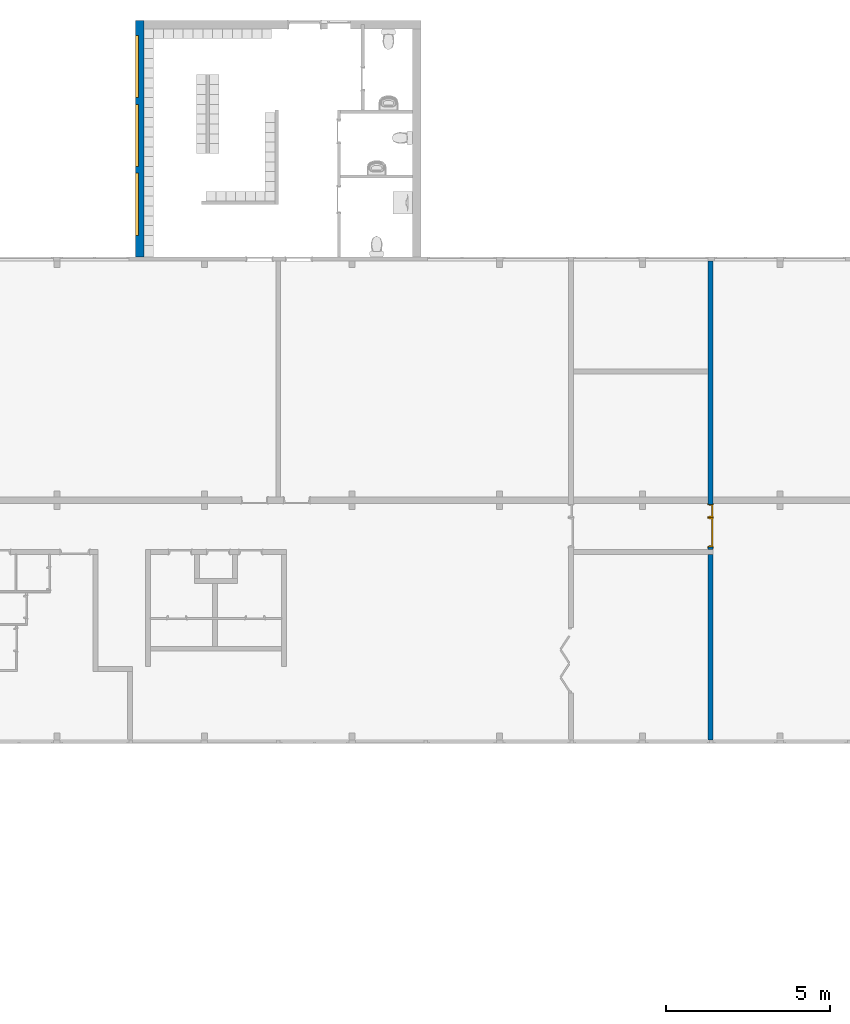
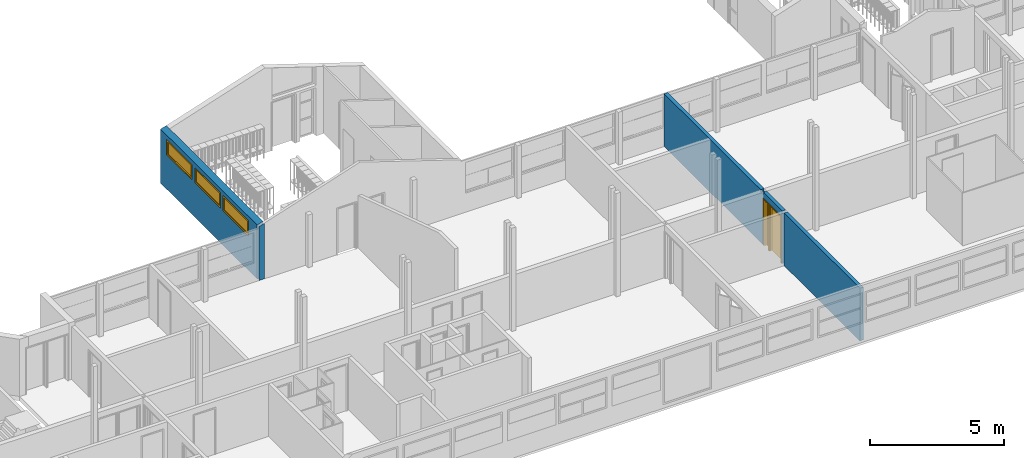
# One storey, part 22 of 48: 3 windows, 2 doors, 2 walls, 5 openings.
"""IFC2X3 building model written with IfcOpenShell, lengths in millimetres."""

from ifc_helpers import new_model, entity, si_unit, converted_unit, derived_unit, money_unit, direction, frame, origin_with_axes, place, context, subcontext, project, spatial, open_shell, faceted_brep, surface_model, source, transform, mapped, material, type_object, element, fill, save


model = new_model("IFC2X3")

# Units and contexts
model_context = context("Model", 3, precision=0.01, world=origin_with_axes(), true_north=direction((0.0, 1.0)))
body_context = subcontext(model_context, "Body", "Model", "MODEL_VIEW")
ifc_project = project(units=[si_unit("LENGTHUNIT", "METRE", prefix="MILLI"), si_unit("AREAUNIT", "SQUARE_METRE"), si_unit("VOLUMEUNIT", "CUBIC_METRE"), converted_unit("PLANEANGLEUNIT", "DEGREE", entity("IfcPlaneAngleMeasure", 0.0174532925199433), si_unit("PLANEANGLEUNIT", "RADIAN"), dimensions=[0, 0, 0, 0, 0, 0, 0]), money_unit("USD"), converted_unit("TIMEUNIT", "Year", entity("IfcTimeMeasure", 31557600.0), si_unit("TIMEUNIT", "SECOND"), dimensions=[0, 0, 1, 0, 0, 0, 0]), si_unit("MASSUNIT", "GRAM", prefix="KILO"), si_unit("THERMODYNAMICTEMPERATUREUNIT", "DEGREE_CELSIUS"), si_unit("LUMINOUSINTENSITYUNIT", "LUMEN"), si_unit("ENERGYUNIT", "JOULE", prefix="MEGA"), derived_unit("THERMALCONDUCTANCEUNIT", [(si_unit("POWERUNIT", "WATT"), 1), (si_unit("LENGTHUNIT", "METRE"), -1), (si_unit("THERMODYNAMICTEMPERATUREUNIT", "KELVIN"), -1)]), derived_unit("SPECIFICHEATCAPACITYUNIT", [(si_unit("ENERGYUNIT", "JOULE"), 1), (si_unit("MASSUNIT", "GRAM", prefix="KILO"), -1), (si_unit("THERMODYNAMICTEMPERATUREUNIT", "KELVIN"), -1)]), derived_unit("MASSDENSITYUNIT", [(si_unit("MASSUNIT", "GRAM", prefix="KILO"), 1), (si_unit("VOLUMEUNIT", "CUBIC_METRE"), -1)])], contexts=[model_context])

# Site, building, storey
site_placement = place(None, origin_with_axes())
site = spatial("IfcSite", under=ifc_project, at=site_placement, Name="Site", CompositionType="ELEMENT")
building_placement = place(site_placement, origin_with_axes())
building = spatial("IfcBuilding", under=site, at=building_placement, Name="Building", CompositionType="ELEMENT")
storey_placement = place(building_placement, frame((0.0, 0.0, 3300.0), z_axis=(0.0, 0.0, 1.0), x_axis=(1.0, 0.0, 0.0)))
storey = spatial("IfcBuildingStorey", under=building, at=storey_placement, Name="1 ETG", CompositionType="ELEMENT", Elevation=3300.0)

# Wall, openings, doors
ifc_material = material(Name="GENERIC - INTERNAL FILLER")
wall_type_1 = type_object("IfcWallType", Name="GENERIC - INTERNAL FILLER 150", PredefinedType="NOTDEFINED")
wall_1_placement = place(storey_placement, frame((51500.00000000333, 7199.837815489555, 0.0), z_axis=(0.0, 0.0, 1.0), x_axis=(-1.768724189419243e-06, 0.9999999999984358, 0.0)))
wall_1 = element("IfcWall", 1, at=wall_1_placement, inside=storey, type_object=wall_type_1, material=ifc_material, Name="SW - 001", context=body_context, shape_type="Brep", body=[
    faceted_brep([(5800.03716090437, 0.0, 0.0), (5875.425638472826, 0.0, 0.0), (5875.425638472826, 0.0, 2100.0), (7175.425571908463, 0.0, 2100.0), (7175.425571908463, 0.0, 0.0), (14600.07247871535, 0.0, 0.0), (14600.07247871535, 0.0, 2400.0), (7400.162184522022, 0.0, 2400.0), (7400.162184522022, 0.0, 2300.000000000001), (7200.16218452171, 0.0, 2300.000000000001), (7200.16218452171, 0.0, 2400.0), (5800.03716090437, 0.0, 2400.0), (5800.037426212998, 149.9999999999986, 0.0), (5875.425638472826, 149.9999999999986, 0.0), (5875.425638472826, 150.0000000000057, 2100.0), (7175.425571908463, 150.0000000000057, 2100.0), (7175.425571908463, 149.9999999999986, 0.0), (14600.0729945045, 149.9999999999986, 0.0), (14600.0729945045, 149.9999999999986, 2400.0), (7400.16244983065, 150.0000000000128, 2400.0), (7400.16244983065, 150.0000000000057, 2300.000000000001), (7200.162449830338, 150.0000000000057, 2300.000000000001), (7200.162449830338, 150.0000000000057, 2400.0), (5800.037426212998, 149.9999999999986, 2400.0)], [[[0, 1, 2, 3, 4, 5, 6, 7, 8, 9, 10, 11]], [[12, 13, 1, 0]], [[14, 2, 1, 13]], [[3, 2, 14, 15]], [[4, 3, 15, 16]], [[4, 16, 17, 5]], [[5, 17, 18, 6]], [[19, 7, 6, 18]], [[8, 7, 19, 20]], [[9, 8, 20, 21]], [[22, 10, 9, 21]], [[10, 22, 23, 11]], [[23, 12, 0, 11]], [[15, 14, 13, 12, 23, 22, 21, 20, 19, 18, 17, 16]]]),
    faceted_brep([(0.0, 149.9999999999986, 0.0), (5650.037426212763, 149.9999999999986, 0.0), (5650.037160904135, 0.0, 0.0), (0.0, 0.0, 0.0), (0.0, 149.9999999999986, 2400.0), (5650.037426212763, 149.9999999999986, 2400.0), (5650.037160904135, 0.0, 2400.0), (0.0, 0.0, 2400.0)], [[[0, 1, 2, 3]], [[4, 5, 1, 0]], [[6, 2, 1, 5]], [[3, 2, 6, 7]], [[7, 4, 0, 3]], [[7, 6, 5, 4]]]),
])
opening_1_placement = place(wall_1_placement, frame((6325.425638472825, 0.0, 0.0), z_axis=(0.0, 0.0, 1.0), x_axis=(1.0, 0.0, 0.0)))
opening_1 = element("IfcOpeningElement", 2, at=opening_1_placement, cuts=wall_1, Name="DOO - 002", context=body_context, shape_type="Brep", body=[
    faceted_brep([(450.0000000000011, -1.025823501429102, 0.0), (450.0000000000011, -1.025823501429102, 2100.0), (-449.9999999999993, -1.025823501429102, 2100.0), (-449.9999999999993, -1.025823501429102, 0.0), (487.0000000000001, -1.025823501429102, 0.0), (487.0000000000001, -1.025823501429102, 2137.0), (-486.9999999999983, -1.025823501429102, 2137.0), (-486.9999999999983, -1.025823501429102, 0.0), (450.0000000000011, 0.0, 0.0), (-449.9999999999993, 0.0, 0.0), (-449.9999999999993, 150.0000000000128, 0.0), (-449.9999999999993, 151.0258235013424, 0.0), (450.0000000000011, 151.0258235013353, 0.0), (450.0000000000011, 150.0000000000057, 0.0), (487.0000000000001, 0.0, 0.0), (487.0000000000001, 0.0, 2137.0), (-486.9999999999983, 0.0, 2137.0), (-486.9999999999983, 0.0, 0.0), (-449.9999999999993, 0.0, 2100.0), (-449.9999999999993, 150.0000000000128, 2100.0), (-486.9999999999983, 150.0000000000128, 0.0), (-487.0000000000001, 151.0258235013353, 0.0), (-487.0000000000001, 151.0258235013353, 2137.0), (487.0000000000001, 151.0258235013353, 2137.0), (487.0000000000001, 151.0258235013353, 0.0), (487.0000000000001, 150.0000000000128, 0.0), (450.0000000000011, 0.0, 2100.0), (450.0000000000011, 150.0000000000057, 2100.0), (487.0000000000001, 150.0000000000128, 2137.0), (-486.9999999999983, 150.0000000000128, 2137.0)], [[[0, 1, 2, 3]], [[2, 1, 0, 4, 5, 6, 7, 3]], [[8, 0, 3, 9, 10, 11, 12, 13]], [[0, 8, 14, 4]], [[14, 15, 5, 4]], [[15, 16, 6, 5]], [[16, 17, 7, 6]], [[9, 3, 7, 17]], [[9, 18, 19, 10]], [[11, 10, 20, 21]], [[12, 11, 21, 22, 23, 24]], [[13, 12, 24, 25]], [[26, 8, 13, 27]], [[8, 26, 18, 9, 17, 16, 15, 14]], [[18, 26, 27, 19]], [[19, 27, 13, 25, 28, 29, 20, 10]], [[20, 29, 22, 21]], [[29, 28, 23, 22]], [[28, 25, 24, 23]]]),
])
opening_2_placement = place(wall_1_placement, frame((6975.425571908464, 0.0, 0.0), z_axis=(0.0, 0.0, 1.0), x_axis=(1.0, 0.0, 0.0)))
opening_2 = element("IfcOpeningElement", 3, at=opening_2_placement, cuts=wall_1, Name="DOO - 002", context=body_context, shape_type="Brep", body=[
    faceted_brep([(200.0000000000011, -1.025823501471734, 0.0), (200.0000000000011, -1.025823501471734, 2100.0), (-199.9999999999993, -1.025823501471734, 2100.0), (-199.9999999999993, -1.025823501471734, 0.0), (237.0000000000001, -1.025823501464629, 0.0), (237.0000000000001, -1.025823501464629, 2137.0), (-237.0000000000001, -1.025823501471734, 2137.0), (-237.0000000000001, -1.025823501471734, 0.0), (199.9999999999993, 0.0, 0.0), (-199.9999999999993, 0.0, 0.0), (-199.9999999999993, 150.0000000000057, 0.0), (-199.9999999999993, 151.0258235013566, 0.0), (199.9999999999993, 151.0258235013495, 0.0), (199.9999999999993, 149.9999999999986, 0.0), (236.9999999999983, 0.0, 0.0), (236.9999999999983, 0.0, 2137.0), (-237.0000000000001, 0.0, 2137.0), (-237.0000000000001, 0.0, 0.0), (-199.9999999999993, 0.0, 2100.0), (-199.9999999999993, 149.9999999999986, 2100.0), (-237.0000000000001, 150.0000000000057, 0.0), (-237.0000000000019, 151.0258235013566, 0.0), (-237.0000000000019, 151.0258235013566, 2137.0), (236.9999999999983, 151.0258235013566, 2137.0), (236.9999999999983, 151.0258235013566, 0.0), (236.9999999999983, 149.9999999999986, 0.0), (199.9999999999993, 0.0, 2100.0), (199.9999999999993, 149.9999999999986, 2100.0), (236.9999999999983, 149.9999999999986, 2137.0), (-237.0000000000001, 150.0000000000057, 2137.0)], [[[0, 1, 2, 3]], [[2, 1, 0, 4, 5, 6, 7, 3]], [[8, 0, 3, 9, 10, 11, 12, 13]], [[0, 8, 14, 4]], [[14, 15, 5, 4]], [[15, 16, 6, 5]], [[16, 17, 7, 6]], [[9, 3, 7, 17]], [[9, 18, 19, 10]], [[11, 10, 20, 21]], [[12, 11, 21, 22, 23, 24]], [[13, 12, 24, 25]], [[26, 8, 13, 27]], [[8, 26, 18, 9, 17, 16, 15, 14]], [[18, 26, 27, 19]], [[19, 27, 13, 25, 28, 29, 20, 10]], [[20, 29, 22, 21]], [[29, 28, 23, 22]], [[28, 25, 24, 23]]]),
])
door_style_1 = type_object("IfcDoorStyle", Name="Dør", ConstructionType="NOTDEFINED", OperationType="SINGLE_SWING_RIGHT", ParameterTakesPrecedence=False, Sizeable=False)
shared_shape_1 = source(origin_with_axes(), body_context, "Body", "Brep", [
    faceted_brep([(-450.0, -115.0, 0.0), (-425.0, -115.0, 0.0), (-425.0, -150.0, 0.0), (-450.0, -150.0, 0.0), (-450.0, -115.0000000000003, 2100.0), (-425.0, -115.0000000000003, 2075.0), (-425.0, -150.0000000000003, 2075.0), (-450.0, -150.0000000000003, 2100.0)], [[[0, 1, 2, 3]], [[0, 4, 5, 1]], [[1, 5, 6, 2]], [[3, 2, 6, 7]], [[4, 0, 3, 7]], [[5, 4, 7, 6]]]),
    faceted_brep([(450.0, -115.0000000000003, 2100.0), (425.0, -115.0000000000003, 2075.0), (425.0, -150.0000000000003, 2075.0), (450.0, -150.0000000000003, 2100.0), (450.0, -115.0, 0.0), (425.0, -115.0, 0.0), (425.0, -150.0, 0.0), (450.0, -150.0, 0.0)], [[[0, 1, 2, 3]], [[0, 4, 5, 1]], [[1, 5, 6, 2]], [[3, 2, 6, 7]], [[4, 0, 3, 7]], [[5, 4, 7, 6]]]),
    faceted_brep([(-425.0, -115.0000000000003, 2075.0), (425.0, -115.0000000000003, 2075.0), (425.0, -150.0000000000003, 2075.0), (-425.0, -150.0000000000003, 2075.0), (-450.0, -115.0000000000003, 2100.0), (450.0, -115.0000000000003, 2100.0), (450.0, -150.0000000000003, 2100.0), (-450.0, -150.0000000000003, 2100.0)], [[[0, 1, 2, 3]], [[0, 4, 5, 1]], [[1, 5, 6, 2]], [[3, 2, 6, 7]], [[4, 0, 3, 7]], [[5, 4, 7, 6]]]),
    faceted_brep([(-487.0, -169.0, 0.0), (-487.0, -150.0, 0.0), (-437.0, -150.0, 0.0), (-437.0, -169.0, 0.0), (-487.0, -169.0000000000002, 2137.0), (-487.0, -150.0000000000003, 2137.0), (-437.0, -150.0000000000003, 2087.0), (-437.0, -169.0000000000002, 2087.0)], [[[0, 1, 2, 3]], [[4, 5, 1, 0]], [[1, 5, 6, 2]], [[3, 2, 6, 7]], [[0, 3, 7, 4]], [[7, 6, 5, 4]]]),
    faceted_brep([(487.0, -169.0000000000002, 2137.0), (487.0, -150.0000000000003, 2137.0), (437.0, -150.0000000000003, 2087.0), (437.0, -169.0000000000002, 2087.0), (487.0, -169.0, 0.0), (487.0, -150.0, 0.0), (437.0, -150.0, 0.0), (437.0, -169.0, 0.0)], [[[0, 1, 2, 3]], [[4, 5, 1, 0]], [[1, 5, 6, 2]], [[3, 2, 6, 7]], [[0, 3, 7, 4]], [[7, 6, 5, 4]]]),
    faceted_brep([(-487.0, -169.0000000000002, 2137.0), (-487.0, -150.0000000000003, 2137.0), (-437.0, -150.0000000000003, 2087.0), (-437.0, -169.0000000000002, 2087.0), (487.0, -169.0000000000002, 2137.0), (487.0, -150.0000000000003, 2137.0), (437.0, -150.0000000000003, 2087.0), (437.0, -169.0000000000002, 2087.0)], [[[0, 1, 2, 3]], [[4, 5, 1, 0]], [[1, 5, 6, 2]], [[3, 2, 6, 7]], [[0, 3, 7, 4]], [[7, 6, 5, 4]]]),
    faceted_brep([(-487.0, 19.0, 0.0), (-437.0, 19.0, 0.0), (-437.0, 0.0, 0.0), (-487.0, 0.0, 0.0), (-487.0, 18.99999999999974, 2137.0), (-437.0, 18.99999999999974, 2087.0), (-437.0, 0.0, 2087.0), (-487.0, 0.0, 2137.0)], [[[0, 1, 2, 3]], [[0, 4, 5, 1]], [[1, 5, 6, 2]], [[3, 2, 6, 7]], [[4, 0, 3, 7]], [[5, 4, 7, 6]]]),
    faceted_brep([(487.0, 18.99999999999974, 2137.0), (437.0, 18.99999999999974, 2087.0), (437.0, 0.0, 2087.0), (487.0, 0.0, 2137.0), (487.0, 19.0, 0.0), (437.0, 19.0, 0.0), (437.0, 0.0, 0.0), (487.0, 0.0, 0.0)], [[[0, 1, 2, 3]], [[0, 4, 5, 1]], [[1, 5, 6, 2]], [[3, 2, 6, 7]], [[4, 0, 3, 7]], [[5, 4, 7, 6]]]),
    faceted_brep([(-487.0, 18.99999999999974, 2137.0), (-437.0, 18.99999999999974, 2087.0), (-437.0, 0.0, 2087.0), (-487.0, 0.0, 2137.0), (487.0, 18.99999999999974, 2137.0), (437.0, 18.99999999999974, 2087.0), (437.0, 0.0, 2087.0), (487.0, 0.0, 2137.0)], [[[0, 1, 2, 3]], [[0, 4, 5, 1]], [[1, 5, 6, 2]], [[3, 2, 6, 7]], [[4, 0, 3, 7]], [[5, 4, 7, 6]]]),
    faceted_brep([(-450.0, 0.0, 0.0), (-410.0000000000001, 0.0, 0.0), (-410.0000000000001, -115.0, 0.0), (-450.0, -115.0, 0.0), (-450.0, 0.0, 2060.0), (-410.0000000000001, 0.0, 2060.0), (-410.0000000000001, -115.0, 2060.0), (-450.0, -115.0, 2060.0)], [[[0, 1, 2, 3]], [[0, 4, 5, 1]], [[1, 5, 6, 2]], [[3, 2, 6, 7]], [[4, 0, 3, 7]], [[5, 4, 7, 6]]]),
    faceted_brep([(450.0, 0.0, 0.0), (450.0, 0.0, 2060.0), (450.0, -115.0, 2060.0), (450.0, -115.0, 0.0), (410.0000000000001, 0.0, 0.0), (410.0000000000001, 0.0, 2060.0), (410.0000000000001, -115.0, 2060.0), (410.0000000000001, -115.0, 0.0)], [[[0, 1, 2, 3]], [[0, 4, 5, 1]], [[1, 5, 6, 2]], [[3, 2, 6, 7]], [[4, 0, 3, 7]], [[5, 4, 7, 6]]]),
    faceted_brep([(-450.0, 0.0, 2100.0), (-450.0, 0.0, 2060.0), (-450.0, -115.0, 2060.0), (-450.0, -115.0, 2100.0), (450.0, 0.0, 2100.0), (450.0, 0.0, 2060.0), (410.0000000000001, 0.0, 2060.0), (-410.0000000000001, 0.0, 2060.0), (-410.0000000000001, -115.0, 2060.0), (410.0000000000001, -115.0, 2060.0), (450.0, -115.0, 2060.0), (450.0, -115.0, 2100.0)], [[[0, 1, 2, 3]], [[0, 4, 5, 6, 7, 1]], [[1, 7, 8, 2]], [[3, 2, 8, 9, 10, 11]], [[4, 0, 3, 11]], [[5, 4, 11, 10]], [[6, 5, 10, 9]], [[7, 6, 9, 8]]]),
    faceted_brep([(409.9999999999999, 0.0, 0.0), (409.9999999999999, -40.0, 0.0), (-410.0000000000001, -40.0, 0.0), (-410.0000000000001, 0.0, 0.0), (409.9999999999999, 0.0, 2060.0), (409.9999999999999, -40.00000000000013, 2060.0), (-410.0000000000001, -40.00000000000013, 2060.0), (-410.0000000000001, 0.0, 2060.0)], [[[0, 1, 2, 3]], [[4, 5, 1, 0]], [[1, 5, 6, 2]], [[3, 2, 6, 7]], [[0, 3, 7, 4]], [[7, 6, 5, 4]]]),
])
door_1_placement = place(opening_1_placement, frame((450.0000000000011, 0.0, 0.0), z_axis=(0.0, 0.0, 1.0), x_axis=(-1.0, 0.0, 0.0)))
door_1 = element("IfcDoor", 4, at=door_1_placement, inside=storey, type_object=door_style_1, Name="DOO - 002", ObjectType="DOOR", OverallHeight=2100.0, OverallWidth=900.0, context=body_context, shape_type="MappedRepresentation", body=[
    mapped(shared_shape_1, transform((450.0000000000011, 0.0, 0.0))),
])
fill(opening_1, door_1)
door_style_2 = type_object("IfcDoorStyle", Name="Dør", ConstructionType="NOTDEFINED", OperationType="SINGLE_SWING_LEFT", ParameterTakesPrecedence=False, Sizeable=False)
shared_shape_2 = source(origin_with_axes(), body_context, "Body", "Brep", [
    faceted_brep([(199.9999999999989, -115.0, 0.0), (199.9999999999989, -150.0, 0.0), (174.9999999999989, -150.0, 0.0), (174.9999999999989, -115.0, 0.0), (199.9999999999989, -115.0000000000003, 2100.0), (199.9999999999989, -150.0000000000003, 2100.0), (174.9999999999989, -150.0000000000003, 2075.0), (174.9999999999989, -115.0000000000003, 2075.0)], [[[0, 1, 2, 3]], [[4, 5, 1, 0]], [[1, 5, 6, 2]], [[3, 2, 6, 7]], [[0, 3, 7, 4]], [[7, 6, 5, 4]]]),
    faceted_brep([(-199.9999999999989, -115.0000000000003, 2100.0), (-199.9999999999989, -150.0000000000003, 2100.0), (-174.9999999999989, -150.0000000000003, 2075.0), (-174.9999999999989, -115.0000000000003, 2075.0), (-199.9999999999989, -115.0, 0.0), (-199.9999999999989, -150.0, 0.0), (-174.9999999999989, -150.0, 0.0), (-174.9999999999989, -115.0, 0.0)], [[[0, 1, 2, 3]], [[4, 5, 1, 0]], [[1, 5, 6, 2]], [[3, 2, 6, 7]], [[0, 3, 7, 4]], [[7, 6, 5, 4]]]),
    faceted_brep([(174.9999999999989, -115.0000000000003, 2075.0), (174.9999999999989, -150.0000000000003, 2075.0), (-174.9999999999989, -150.0000000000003, 2075.0), (-174.9999999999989, -115.0000000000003, 2075.0), (199.9999999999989, -115.0000000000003, 2100.0), (199.9999999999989, -150.0000000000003, 2100.0), (-199.9999999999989, -150.0000000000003, 2100.0), (-199.9999999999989, -115.0000000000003, 2100.0)], [[[0, 1, 2, 3]], [[4, 5, 1, 0]], [[1, 5, 6, 2]], [[3, 2, 6, 7]], [[0, 3, 7, 4]], [[7, 6, 5, 4]]]),
    faceted_brep([(236.9999999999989, -169.0, 0.0), (186.9999999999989, -169.0, 0.0), (186.9999999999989, -150.0, 0.0), (236.9999999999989, -150.0, 0.0), (236.9999999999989, -169.0000000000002, 2137.0), (186.9999999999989, -169.0000000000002, 2087.0), (186.9999999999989, -150.0000000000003, 2087.0), (236.9999999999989, -150.0000000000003, 2137.0)], [[[0, 1, 2, 3]], [[0, 4, 5, 1]], [[1, 5, 6, 2]], [[3, 2, 6, 7]], [[4, 0, 3, 7]], [[5, 4, 7, 6]]]),
    faceted_brep([(-236.9999999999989, -169.0000000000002, 2137.0), (-186.9999999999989, -169.0000000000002, 2087.0), (-186.9999999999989, -150.0000000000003, 2087.0), (-236.9999999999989, -150.0000000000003, 2137.0), (-236.9999999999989, -169.0, 0.0), (-186.9999999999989, -169.0, 0.0), (-186.9999999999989, -150.0, 0.0), (-236.9999999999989, -150.0, 0.0)], [[[0, 1, 2, 3]], [[0, 4, 5, 1]], [[1, 5, 6, 2]], [[3, 2, 6, 7]], [[4, 0, 3, 7]], [[5, 4, 7, 6]]]),
    faceted_brep([(236.9999999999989, -169.0000000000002, 2137.0), (186.9999999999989, -169.0000000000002, 2087.0), (186.9999999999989, -150.0000000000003, 2087.0), (236.9999999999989, -150.0000000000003, 2137.0), (-236.9999999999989, -169.0000000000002, 2137.0), (-186.9999999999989, -169.0000000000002, 2087.0), (-186.9999999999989, -150.0000000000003, 2087.0), (-236.9999999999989, -150.0000000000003, 2137.0)], [[[0, 1, 2, 3]], [[0, 4, 5, 1]], [[1, 5, 6, 2]], [[3, 2, 6, 7]], [[4, 0, 3, 7]], [[5, 4, 7, 6]]]),
    faceted_brep([(236.9999999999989, 19.0, 0.0), (236.9999999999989, 0.0, 0.0), (186.9999999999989, 0.0, 0.0), (186.9999999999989, 19.0, 0.0), (236.9999999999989, 18.99999999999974, 2137.0), (236.9999999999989, 0.0, 2137.0), (186.9999999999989, 0.0, 2087.0), (186.9999999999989, 18.99999999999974, 2087.0)], [[[0, 1, 2, 3]], [[4, 5, 1, 0]], [[1, 5, 6, 2]], [[3, 2, 6, 7]], [[0, 3, 7, 4]], [[7, 6, 5, 4]]]),
    faceted_brep([(-236.9999999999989, 18.99999999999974, 2137.0), (-236.9999999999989, 0.0, 2137.0), (-186.9999999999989, 0.0, 2087.0), (-186.9999999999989, 18.99999999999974, 2087.0), (-236.9999999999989, 19.0, 0.0), (-236.9999999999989, 0.0, 0.0), (-186.9999999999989, 0.0, 0.0), (-186.9999999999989, 19.0, 0.0)], [[[0, 1, 2, 3]], [[4, 5, 1, 0]], [[1, 5, 6, 2]], [[3, 2, 6, 7]], [[0, 3, 7, 4]], [[7, 6, 5, 4]]]),
    faceted_brep([(236.9999999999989, 18.99999999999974, 2137.0), (236.9999999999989, 0.0, 2137.0), (186.9999999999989, 0.0, 2087.0), (186.9999999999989, 18.99999999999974, 2087.0), (-236.9999999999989, 18.99999999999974, 2137.0), (-236.9999999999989, 0.0, 2137.0), (-186.9999999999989, 0.0, 2087.0), (-186.9999999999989, 18.99999999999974, 2087.0)], [[[0, 1, 2, 3]], [[4, 5, 1, 0]], [[1, 5, 6, 2]], [[3, 2, 6, 7]], [[0, 3, 7, 4]], [[7, 6, 5, 4]]]),
    faceted_brep([(199.9999999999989, 0.0, 0.0), (199.9999999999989, -115.0, 0.0), (159.9999999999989, -115.0, 0.0), (159.9999999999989, 0.0, 0.0), (199.9999999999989, 0.0, 2060.0), (199.9999999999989, -115.0, 2060.0), (159.9999999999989, -115.0, 2060.0), (159.9999999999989, 0.0, 2060.0)], [[[0, 1, 2, 3]], [[4, 5, 1, 0]], [[1, 5, 6, 2]], [[3, 2, 6, 7]], [[0, 3, 7, 4]], [[7, 6, 5, 4]]]),
    faceted_brep([(-199.9999999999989, 0.0, 0.0), (-199.9999999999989, -115.0, 0.0), (-199.9999999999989, -115.0, 2060.0), (-199.9999999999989, 0.0, 2060.0), (-159.9999999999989, 0.0, 0.0), (-159.9999999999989, -115.0, 0.0), (-159.9999999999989, -115.0, 2060.0), (-159.9999999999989, 0.0, 2060.0)], [[[0, 1, 2, 3]], [[4, 5, 1, 0]], [[1, 5, 6, 2]], [[3, 2, 6, 7]], [[0, 3, 7, 4]], [[7, 6, 5, 4]]]),
    faceted_brep([(199.9999999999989, 0.0, 2100.0), (199.9999999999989, -115.0, 2100.0), (199.9999999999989, -115.0, 2060.0), (199.9999999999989, 0.0, 2060.0), (-199.9999999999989, 0.0, 2100.0), (-199.9999999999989, -115.0, 2100.0), (-199.9999999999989, -115.0, 2060.0), (-159.9999999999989, -115.0, 2060.0), (159.9999999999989, -115.0, 2060.0), (159.9999999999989, 0.0, 2060.0), (-159.9999999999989, 0.0, 2060.0), (-199.9999999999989, 0.0, 2060.0)], [[[0, 1, 2, 3]], [[4, 5, 1, 0]], [[1, 5, 6, 7, 8, 2]], [[3, 2, 8, 9]], [[0, 3, 9, 10, 11, 4]], [[11, 6, 5, 4]], [[10, 7, 6, 11]], [[9, 8, 7, 10]]]),
    faceted_brep([(-159.999999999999, 0.0, 0.0), (159.9999999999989, 0.0, 0.0), (159.9999999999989, -40.0, 0.0), (-159.999999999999, -40.0, 0.0), (-159.999999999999, 0.0, 2060.0), (159.9999999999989, 0.0, 2060.0), (159.9999999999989, -40.00000000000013, 2060.0), (-159.999999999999, -40.00000000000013, 2060.0)], [[[0, 1, 2, 3]], [[0, 4, 5, 1]], [[1, 5, 6, 2]], [[3, 2, 6, 7]], [[4, 0, 3, 7]], [[5, 4, 7, 6]]]),
])
door_2_placement = place(opening_2_placement, frame((199.9999999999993, 0.0, 0.0), z_axis=(0.0, 0.0, 1.0), x_axis=(-1.0, 0.0, 0.0)))
door_2 = element("IfcDoor", 5, at=door_2_placement, inside=storey, type_object=door_style_2, Name="DOO - 002", ObjectType="DOOR", OverallHeight=2100.0, OverallWidth=400.0, context=body_context, shape_type="MappedRepresentation", body=[
    mapped(shared_shape_2, transform((199.9999999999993, 0.0, 0.0))),
])
fill(opening_2, door_2)

# Wall, openings, windows
wall_type_2 = type_object("IfcWallType", Name="GENERIC - INTERNAL FILLER 250", PredefinedType="NOTDEFINED")
wall_2_placement = place(storey_placement, frame((34025.0168990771, 21799.87497637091, 0.0), z_axis=(0.0, 0.0, 1.0), x_axis=(0.0, 1.0, 0.0)))
wall_2 = element("IfcWall", 6, at=wall_2_placement, inside=storey, type_object=wall_type_2, material=ifc_material, Name="SW - 001", context=body_context, shape_type="Brep", body=[
    faceted_brep([(120.0647074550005, 125.0, 0.0), (120.0647074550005, 124.9999999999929, 2456.861212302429), (7325.125020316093, 124.9999897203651, 2456.861203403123), (7325.125023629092, 125.0, 0.0), (2674.999993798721, 124.9999999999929, 2265.018749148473), (774.9999937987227, 124.9999999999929, 2265.018749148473), (774.9999937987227, 124.9999999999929, 1565.018749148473), (2674.999993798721, 124.9999999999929, 1565.018749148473), (4774.999993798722, 124.9999897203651, 1565.018749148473), (4774.999993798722, 124.9999897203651, 2265.018749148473), (2874.999993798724, 124.9999897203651, 2265.018749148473), (2874.999993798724, 124.9999897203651, 1565.018749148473), (4974.999993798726, 125.0, 1565.018749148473), (6874.999993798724, 125.0, 1565.018749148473), (6874.999993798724, 125.0, 2265.018749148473), (4974.999993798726, 125.0, 2265.018749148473), (120.0642899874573, -125.0, 0.0), (120.0642899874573, -125.0, 2538.091136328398), (7325.125020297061, -125.0, 2538.091124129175), (7325.125023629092, -125.0, 0.0), (2674.999993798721, -125.0, 2265.018749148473), (774.9999937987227, -125.0, 2265.018749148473), (774.9999937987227, -125.0, 1565.018749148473), (2674.999993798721, -125.0, 1565.018749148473), (4774.999993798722, -125.0, 2265.018749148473), (4774.999993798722, -125.0, 1565.018749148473), (2874.999993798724, -125.0, 2265.018749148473), (2874.999993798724, -125.0, 1565.018749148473), (4974.999993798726, -125.0, 1565.018749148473), (6874.999993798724, -125.0, 1565.018749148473), (6874.999993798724, -125.0, 2265.018749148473), (4974.999993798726, -125.0, 2265.018749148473)], [[[0, 1, 2, 3], [4, 5, 6, 7], [8, 9, 10, 11], [12, 13, 14, 15]], [[0, 16, 17, 1]], [[1, 17, 18, 2]], [[19, 3, 2, 18]], [[19, 16, 0, 3]], [[5, 4, 20, 21]], [[6, 5, 21, 22]], [[7, 6, 22, 23]], [[4, 7, 23, 20]], [[24, 9, 8, 25]], [[26, 10, 9, 24]], [[27, 11, 10, 26]], [[25, 8, 11, 27]], [[28, 29, 13, 12]], [[29, 30, 14, 13]], [[30, 31, 15, 14]], [[31, 28, 12, 15]], [[16, 19, 18, 17], [20, 23, 22, 21], [26, 24, 25, 27], [28, 31, 30, 29]]]),
    faceted_brep([(0.06470745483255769, 125.0, 0.0), (0.06470745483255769, 124.9999999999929, 2456.861212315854), (0.06428998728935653, -125.0, 2538.091136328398), (0.06428998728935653, -125.0, 0.0), (0.0, 125.0, 0.0), (0.0, 124.9999999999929, 2456.861212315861), (0.0, -125.0, 2538.091136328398), (0.0, -125.0, 0.0)], [[[0, 1, 2, 3]], [[4, 5, 1, 0]], [[5, 6, 2, 1]], [[3, 2, 6, 7]], [[4, 0, 3, 7]], [[7, 6, 5, 4]]]),
])
opening_3_placement = place(wall_2_placement, frame((1724.999993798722, 0.0, 1565.018749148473), z_axis=(0.0, 0.0, 1.0), x_axis=(1.0, 0.0, 0.0)))
opening_3 = element("IfcOpeningElement", 7, at=opening_3_placement, cuts=wall_2, Name="WD - 001", context=body_context, shape_type="Brep", body=[
    faceted_brep([(-949.9999999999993, -125.9999999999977, 700.0000000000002), (-949.9999999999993, -125.9999999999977, 0.0), (949.9999999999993, -125.9999999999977, 0.0), (949.9999999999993, -125.9999999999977, 700.0000000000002), (-949.9999999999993, 125.9999999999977, 700.0000000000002), (-949.9999999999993, 125.9999999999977, 0.0), (949.9999999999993, 125.9999999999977, 0.0), (949.9999999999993, 125.9999999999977, 700.0000000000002)], [[[0, 1, 2, 3]], [[4, 5, 1, 0]], [[5, 6, 2, 1]], [[6, 7, 3, 2]], [[7, 4, 0, 3]], [[6, 5, 4, 7]]]),
])
opening_4_placement = place(wall_2_placement, frame((5924.999993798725, 0.0, 1565.018749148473), z_axis=(0.0, 0.0, 1.0), x_axis=(1.0, 0.0, 0.0)))
opening_4 = element("IfcOpeningElement", 8, at=opening_4_placement, cuts=wall_2, Name="WD - 001", context=body_context, shape_type="Brep", body=[
    faceted_brep([(-949.9999999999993, -125.9999999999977, 700.0000000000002), (-949.9999999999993, -125.9999999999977, 0.0), (949.9999999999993, -125.9999999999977, 0.0), (949.9999999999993, -125.9999999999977, 700.0000000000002), (-949.9999999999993, 125.9999999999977, 700.0000000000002), (-949.9999999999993, 125.9999999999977, 0.0), (949.9999999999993, 125.9999999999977, 0.0), (949.9999999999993, 125.9999999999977, 700.0000000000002)], [[[0, 1, 2, 3]], [[4, 5, 1, 0]], [[5, 6, 2, 1]], [[6, 7, 3, 2]], [[7, 4, 0, 3]], [[6, 5, 4, 7]]]),
])
opening_5_placement = place(wall_2_placement, frame((3824.999993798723, 0.0, 1565.018749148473), z_axis=(0.0, 0.0, 1.0), x_axis=(1.0, 0.0, 0.0)))
opening_5 = element("IfcOpeningElement", 9, at=opening_5_placement, cuts=wall_2, Name="WD - 001", context=body_context, shape_type="Brep", body=[
    faceted_brep([(-949.9999999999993, -125.9999999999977, 700.0000000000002), (-949.9999999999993, -125.9999999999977, 0.0), (949.9999999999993, -125.9999999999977, 0.0), (949.9999999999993, -125.9999999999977, 700.0000000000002), (-949.9999999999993, 125.9999999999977, 700.0000000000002), (-949.9999999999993, 125.9999999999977, 0.0), (949.9999999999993, 125.9999999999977, 0.0), (949.9999999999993, 125.9999999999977, 700.0000000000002)], [[[0, 1, 2, 3]], [[4, 5, 1, 0]], [[5, 6, 2, 1]], [[6, 7, 3, 2]], [[7, 4, 0, 3]], [[6, 5, 4, 7]]]),
])
window_style = type_object("IfcWindowStyle", Name="Vindu", ConstructionType="NOTDEFINED", OperationType="SINGLE_PANEL", ParameterTakesPrecedence=False, Sizeable=False)
shared_shape_3 = source(origin_with_axes(), body_context, "Body", "SurfaceModel", [
    faceted_brep([(-883.9999999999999, -92.00000000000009, 633.9999999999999), (-883.9999999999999, 0.0, 633.9999999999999), (-950.0, 0.0, 633.9999999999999), (-950.0, -92.00000000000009, 633.9999999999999), (-883.9999999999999, -92.0, 66.0), (-883.9999999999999, 0.0, 66.0), (-950.0, 0.0, 66.0), (-950.0, -92.0, 66.0)], [[[0, 1, 2, 3]], [[4, 5, 1, 0]], [[1, 5, 6, 2]], [[3, 2, 6, 7]], [[0, 3, 7, 4]], [[7, 6, 5, 4]]]),
    faceted_brep([(883.9999999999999, -92.0, 66.0), (883.9999999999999, 0.0, 66.0), (950.0, 0.0, 66.0), (950.0, -92.0, 66.0), (883.9999999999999, -92.00000000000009, 633.9999999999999), (883.9999999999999, 0.0, 633.9999999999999), (950.0, 0.0, 633.9999999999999), (950.0, -92.00000000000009, 633.9999999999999)], [[[0, 1, 2, 3]], [[4, 5, 1, 0]], [[1, 5, 6, 2]], [[3, 2, 6, 7]], [[0, 3, 7, 4]], [[7, 6, 5, 4]]]),
    faceted_brep([(-883.9999999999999, -92.0, 66.0), (-883.9999999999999, 0.0, 66.0), (-950.0, 0.0, 66.0), (-950.0, -92.0, 66.0), (883.9999999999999, -92.0, 66.0), (883.9999999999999, 0.0, 66.0), (950.0, 0.0, 66.0), (950.0, 0.0, 0.0), (-950.0, 0.0, 0.0), (-950.0, -92.0, 0.0), (950.0, -92.0, 0.0), (950.0, -92.0, 66.0)], [[[0, 1, 2, 3]], [[4, 5, 1, 0]], [[1, 5, 6, 7, 8, 2]], [[3, 2, 8, 9]], [[0, 3, 9, 10, 11, 4]], [[11, 6, 5, 4]], [[10, 7, 6, 11]], [[9, 8, 7, 10]]]),
    faceted_brep([(883.9999999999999, -92.00000000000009, 633.9999999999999), (883.9999999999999, 0.0, 633.9999999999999), (950.0, 0.0, 633.9999999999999), (950.0, -92.00000000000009, 633.9999999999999), (-883.9999999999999, -92.00000000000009, 633.9999999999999), (-883.9999999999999, 0.0, 633.9999999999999), (-950.0, 0.0, 633.9999999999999), (-950.0, 0.0, 700.0), (950.0, 0.0, 700.0), (950.0, -92.00000000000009, 700.0), (-950.0, -92.00000000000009, 700.0), (-950.0, -92.00000000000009, 633.9999999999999)], [[[0, 1, 2, 3]], [[4, 5, 1, 0]], [[1, 5, 6, 7, 8, 2]], [[3, 2, 8, 9]], [[0, 3, 9, 10, 11, 4]], [[11, 6, 5, 4]], [[10, 7, 6, 11]], [[9, 8, 7, 10]]]),
    surface_model("IfcShellBasedSurfaceModel", [(-883.9999999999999, -56.0, 66.0), (883.9999999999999, -56.0, 66.0), (883.9999999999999, -56.00000000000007, 633.9999999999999), (-883.9999999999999, -56.00000000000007, 633.9999999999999)], [open_shell([[[0, 1, 2, 3]]])]),
    surface_model("IfcShellBasedSurfaceModel", [(-883.9999999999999, -36.00000000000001, 66.0), (-883.9999999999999, -36.00000000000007, 633.9999999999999), (883.9999999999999, -36.00000000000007, 633.9999999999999), (883.9999999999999, -36.00000000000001, 66.0)], [open_shell([[[0, 1, 2, 3]]])]),
])
window_1_placement = place(opening_3_placement, frame((-949.9999999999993, 0.0, 0.0), z_axis=(0.0, 0.0, 1.0), x_axis=(1.0, 0.0, 0.0)))
window_1 = element("IfcWindow", 10, at=window_1_placement, inside=storey, type_object=window_style, Name="WD - 001", ObjectType="WINDOW", OverallHeight=700.0, OverallWidth=1900.0, context=body_context, shape_type="MappedRepresentation", body=[
    mapped(shared_shape_3, transform((949.9999999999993, 125.0, 0.0))),
])
fill(opening_3, window_1)
window_2_placement = place(opening_5_placement, frame((-949.9999999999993, 0.0, 0.0), z_axis=(0.0, 0.0, 1.0), x_axis=(1.0, 0.0, 0.0)))
window_2 = element("IfcWindow", 11, at=window_2_placement, inside=storey, type_object=window_style, Name="WD - 001", ObjectType="WINDOW", OverallHeight=700.0, OverallWidth=1900.0, context=body_context, shape_type="MappedRepresentation", body=[
    mapped(shared_shape_3, transform((949.9999999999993, 125.0, 0.0))),
])
fill(opening_5, window_2)
window_3_placement = place(opening_4_placement, frame((-949.9999999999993, 0.0, 0.0), z_axis=(0.0, 0.0, 1.0), x_axis=(1.0, 0.0, 0.0)))
window_3 = element("IfcWindow", 12, at=window_3_placement, inside=storey, type_object=window_style, Name="WD - 001", ObjectType="WINDOW", OverallHeight=700.0, OverallWidth=1900.0, context=body_context, shape_type="MappedRepresentation", body=[
    mapped(shared_shape_3, transform((949.9999999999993, 125.0, 0.0))),
])
fill(opening_4, window_3)

save(model, "model.ifc")
